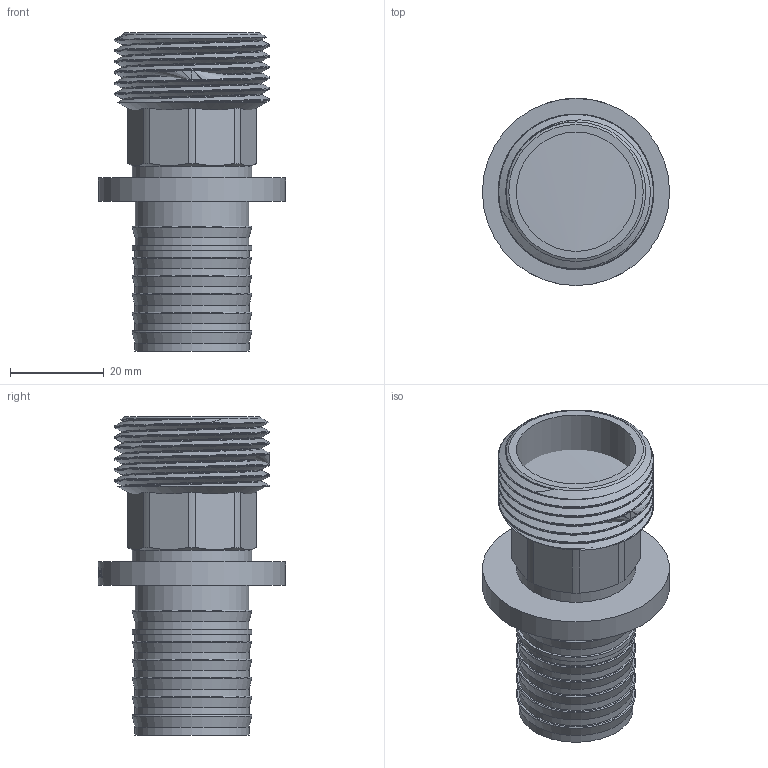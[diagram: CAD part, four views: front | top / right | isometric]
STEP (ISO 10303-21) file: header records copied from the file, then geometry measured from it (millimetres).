
FILE_DESCRIPTION(/* description */ (''),/* implementation_level */ '2;1');
FILE_NAME(/* name */ 'C:\Users\Doom\Desktop\Фадотех\Натяжка\FD-SFM19NEW 14.04.2020\FADO-SFM19NEW 14.04.2020.stp',/* time_stamp */ '2022-07-24T10:58:38+03:00',/* author */ ('Doom'),/* organization */ (''),/* preprocessor_version */ 'ST-DEVELOPER v18',/* originating_system */ 'Autodesk Inventor 2020',/* authorisation */ '');
FILE_SCHEMA (('AUTOMOTIVE_DESIGN { 1 0 10303 214 3 1 1 }'));
Length unit declared in the file: millimetre
Products named in the file (1): FADO-SFM19NEW 14.04.2020
Bounding box: 40 x 40 x 68 mm (x, y, z)
Volume: 19302.1 mm3; surface area: 17278.4 mm2
Topology: 2 solids, 2 shells, 168 faces, 474 edges, 326 vertices
Faces by surface type: plane 59, bspline 54, cylinder 37, cone 12, torus 6
Full cylindrical faces by diameter (mm): 20 x1, 24.357 x2, 24.4 x6, 25.5 x3, 29.826 x2, 33.25 x6, 40 x1
Entity records: 10254 total; most frequent: CARTESIAN_POINT 6113, ORIENTED_EDGE 948, DIRECTION 723, EDGE_CURVE 474, VERTEX_POINT 326, AXIS2_PLACEMENT_3D 277, EDGE_LOOP 188, LINE 169
